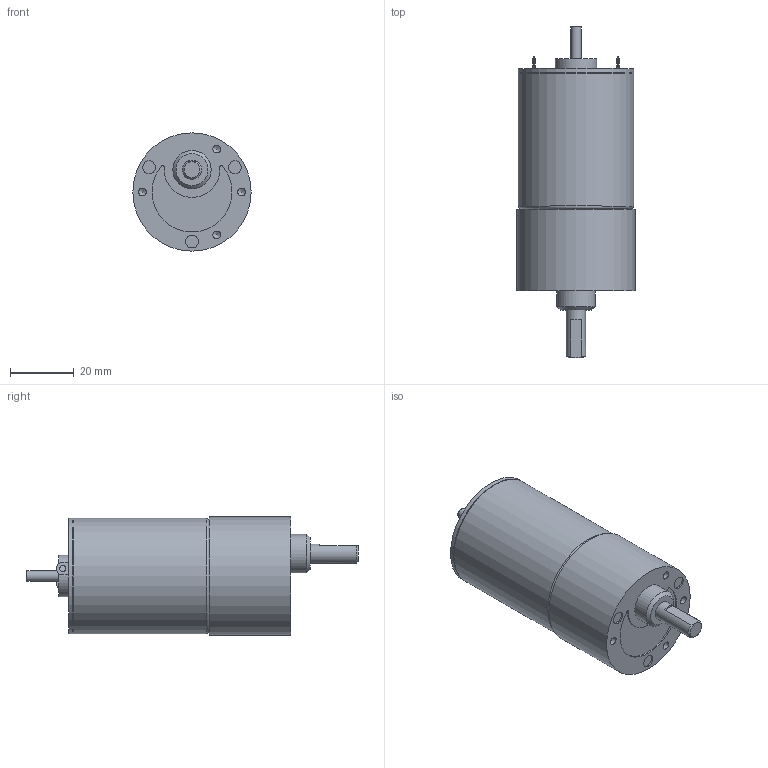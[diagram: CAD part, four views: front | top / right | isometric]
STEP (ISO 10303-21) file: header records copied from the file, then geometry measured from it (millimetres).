
FILE_DESCRIPTION((''),'2;1');
FILE_NAME('C:\Documents and Settings\SSEGAWA\デスクトップ\TP-3644L-KM-3.STP','2013-07-26T18:41:54',('SSEGAWA'),(''),'Autodesk Inventor 2010','Autodesk Inventor 2010','');
FILE_SCHEMA(('CONFIG_CONTROL_DESIGN'));
Length unit declared in the file: millimetre
Products named in the file (1): tp_3644l_km_3_Shrinkwrap_1
Bounding box: 37 x 103.8 x 37 mm (x, y, z)
Volume: 73441.8 mm3; surface area: 11341.4 mm2
Topology: 1 solids, 4 shells, 67 faces, 141 edges, 94 vertices
Faces by surface type: plane 28, cylinder 19, bspline 16, torus 2, cone 2
Full cylindrical faces by diameter (mm): 3 x1, 3.175 x1, 3.5 x1, 4 x3, 6 x1, 12 x1, 13 x1, 35.6 x1, 36 x2, 37 x1
Entity records: 1793 total; most frequent: CARTESIAN_POINT 509, DIRECTION 253, ORIENTED_EDGE 180, EDGE_LOOP 115, AXIS2_PLACEMENT_3D 113, EDGE_CURVE 90, VERTEX_POINT 75, STYLED_ITEM 68
